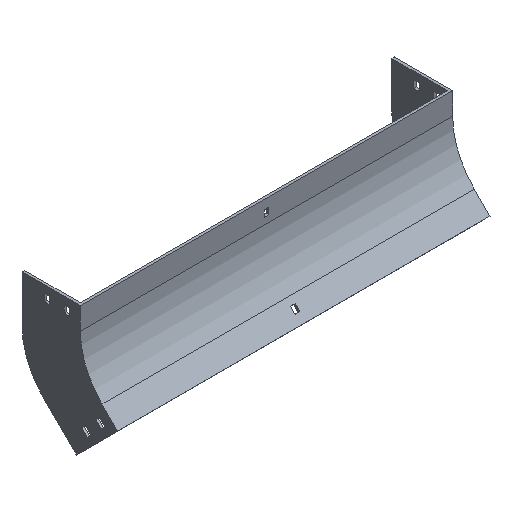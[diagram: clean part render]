
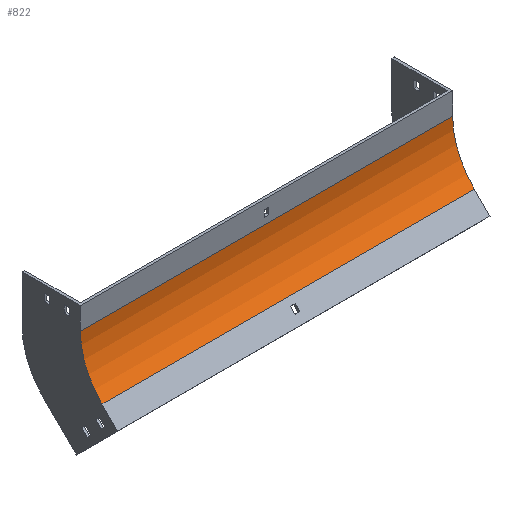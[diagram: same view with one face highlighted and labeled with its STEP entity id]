
A CAD part, isometric view. The second image highlights one B-rep face of the part: STEP entity #822.
In plain terms, the highlighted cylindrical face has radius 100 mm (diameter 200 mm), a partial arc.
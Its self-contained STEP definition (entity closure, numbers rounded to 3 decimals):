
#31 = LINE ( 'NONE', #508, #1045 ) ;
#55 = EDGE_CURVE ( 'NONE', #1499, #646, #655, .T. ) ;
#65 = EDGE_CURVE ( 'NONE', #625, #275, #31, .T. ) ;
#90 = DIRECTION ( 'NONE',  ( -1., 0., 0. ) ) ;
#136 = CARTESIAN_POINT ( 'NONE',  ( 252., -100., -30. ) ) ;
#167 = CYLINDRICAL_SURFACE ( 'NONE', #1417, 100. ) ;
#231 = ORIENTED_EDGE ( 'NONE', *, *, #55, .F. ) ;
#271 = AXIS2_PLACEMENT_3D ( 'NONE', #1139, #90, #1588 ) ;
#275 = VERTEX_POINT ( 'NONE', #1868 ) ;
#288 = EDGE_LOOP ( 'NONE', ( #1686, #231, #459, #1901 ) ) ;
#400 = DIRECTION ( 'NONE',  ( 0., 0., 1. ) ) ;
#417 = CARTESIAN_POINT ( 'NONE',  ( -252., -29.289, -100.711 ) ) ;
#459 = ORIENTED_EDGE ( 'NONE', *, *, #1398, .F. ) ;
#508 = CARTESIAN_POINT ( 'NONE',  ( 252., 0., -30. ) ) ;
#625 = VERTEX_POINT ( 'NONE', #1919 ) ;
#646 = VERTEX_POINT ( 'NONE', #417 ) ;
#655 = LINE ( 'NONE', #1576, #860 ) ;
#740 = CIRCLE ( 'NONE', #1845, 100. ) ;
#743 = DIRECTION ( 'NONE',  ( -1., 0., 0. ) ) ;
#822 = ADVANCED_FACE ( 'NONE', ( #891 ), #167, .F. ) ;
#860 = VECTOR ( 'NONE', #974, 1000. ) ;
#891 = FACE_OUTER_BOUND ( 'NONE', #288, .T. ) ;
#974 = DIRECTION ( 'NONE',  ( -1., 0., 0. ) ) ;
#1045 = VECTOR ( 'NONE', #1699, 1000. ) ;
#1139 = CARTESIAN_POINT ( 'NONE',  ( 252., -100., -30. ) ) ;
#1187 = CARTESIAN_POINT ( 'NONE',  ( 252., -29.289, -100.711 ) ) ;
#1308 = DIRECTION ( 'NONE',  ( -1., 0., 0. ) ) ;
#1337 = DIRECTION ( 'NONE',  ( 0., 0., 1. ) ) ;
#1398 = EDGE_CURVE ( 'NONE', #625, #1499, #1622, .T. ) ;
#1417 = AXIS2_PLACEMENT_3D ( 'NONE', #136, #743, #1337 ) ;
#1499 = VERTEX_POINT ( 'NONE', #1187 ) ;
#1576 = CARTESIAN_POINT ( 'NONE',  ( 252., -29.289, -100.711 ) ) ;
#1588 = DIRECTION ( 'NONE',  ( 0., 0., 1. ) ) ;
#1622 = CIRCLE ( 'NONE', #271, 100. ) ;
#1686 = ORIENTED_EDGE ( 'NONE', *, *, #1864, .T. ) ;
#1699 = DIRECTION ( 'NONE',  ( -1., 0., 0. ) ) ;
#1845 = AXIS2_PLACEMENT_3D ( 'NONE', #1900, #1308, #400 ) ;
#1864 = EDGE_CURVE ( 'NONE', #275, #646, #740, .T. ) ;
#1868 = CARTESIAN_POINT ( 'NONE',  ( -252., 0., -30. ) ) ;
#1900 = CARTESIAN_POINT ( 'NONE',  ( -252., -100., -30. ) ) ;
#1901 = ORIENTED_EDGE ( 'NONE', *, *, #65, .T. ) ;
#1919 = CARTESIAN_POINT ( 'NONE',  ( 252., 0., -30. ) ) ;
